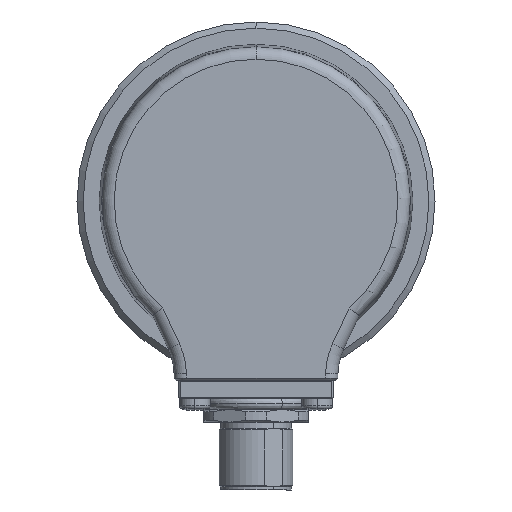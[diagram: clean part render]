
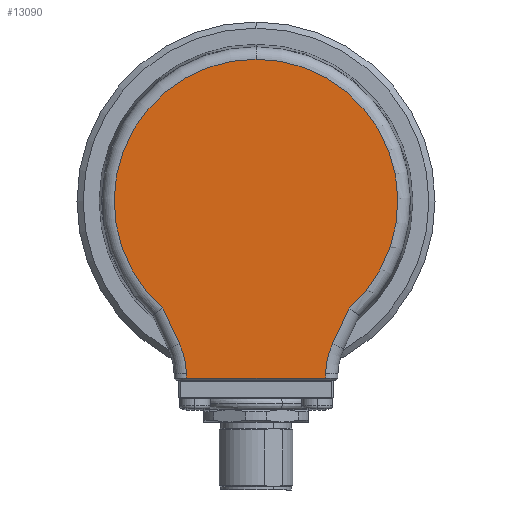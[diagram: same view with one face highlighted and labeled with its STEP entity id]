
A CAD part, left-side view. The second image highlights one B-rep face of the part: STEP entity #13090.
In plain terms, the highlighted planar face has unit normal (-1, 0, 0).
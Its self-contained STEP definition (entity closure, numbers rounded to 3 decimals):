
#22 = AXIS2_PLACEMENT_3D ( 'NONE', #3606, #16375, #5294 ) ;
#172 = CIRCLE ( 'NONE', #9676, 22.972 ) ;
#320 = LINE ( 'NONE', #5940, #7413 ) ;
#427 = CARTESIAN_POINT ( 'NONE',  ( -21., -11.25, -28.695 ) ) ;
#544 = CIRCLE ( 'NONE', #22, 12. ) ;
#1173 = CARTESIAN_POINT ( 'NONE',  ( -21., 11.255, -28.695 ) ) ;
#1405 = DIRECTION ( 'NONE',  ( 0., 0., 1. ) ) ;
#1484 = VERTEX_POINT ( 'NONE', #17247 ) ;
#1941 = VERTEX_POINT ( 'NONE', #13682 ) ;
#2122 = LINE ( 'NONE', #6018, #7319 ) ;
#2141 = VECTOR ( 'NONE', #11234, 1000. ) ;
#2441 = CARTESIAN_POINT ( 'NONE',  ( -21., 0., 0. ) ) ;
#2485 = AXIS2_PLACEMENT_3D ( 'NONE', #4322, #8415, #12645 ) ;
#2655 = DIRECTION ( 'NONE',  ( -1., 0., 0. ) ) ;
#2667 = LINE ( 'NONE', #15488, #2141 ) ;
#2771 = CARTESIAN_POINT ( 'NONE',  ( -21., 0., 0. ) ) ;
#3019 = ORIENTED_EDGE ( 'NONE', *, *, #10937, .T. ) ;
#3571 = ORIENTED_EDGE ( 'NONE', *, *, #9478, .T. ) ;
#3606 = CARTESIAN_POINT ( 'NONE',  ( -21., 23.266, -28.183 ) ) ;
#3626 = AXIS2_PLACEMENT_3D ( 'NONE', #5694, #10175, #19761 ) ;
#4322 = CARTESIAN_POINT ( 'NONE',  ( -21., -23.266, -28.183 ) ) ;
#4502 = DIRECTION ( 'NONE',  ( 0., -0.423, 0.906 ) ) ;
#5133 = DIRECTION ( 'NONE',  ( 0., 0., 1. ) ) ;
#5294 = DIRECTION ( 'NONE',  ( 0., 0., 1. ) ) ;
#5541 = PLANE ( 'NONE',  #17816 ) ;
#5636 = CARTESIAN_POINT ( 'NONE',  ( -21., -12.39, -23.112 ) ) ;
#5641 = EDGE_CURVE ( 'NONE', #12774, #12118, #10895, .T. ) ;
#5694 = CARTESIAN_POINT ( 'NONE',  ( -21., 0., 0. ) ) ;
#5781 = ORIENTED_EDGE ( 'NONE', *, *, #13299, .T. ) ;
#5940 = CARTESIAN_POINT ( 'NONE',  ( -21., 12.39, -23.112 ) ) ;
#6015 = DIRECTION ( 'NONE',  ( 0., -0.423, -0.906 ) ) ;
#6018 = CARTESIAN_POINT ( 'NONE',  ( -21., -14.953, -17.615 ) ) ;
#6709 = EDGE_CURVE ( 'NONE', #14110, #12774, #172, .T. ) ;
#7319 = VECTOR ( 'NONE', #4502, 1000. ) ;
#7413 = VECTOR ( 'NONE', #6015, 1000. ) ;
#7583 = VERTEX_POINT ( 'NONE', #19393 ) ;
#8147 = DIRECTION ( 'NONE',  ( 0., -0.017, 1. ) ) ;
#8301 = VERTEX_POINT ( 'NONE', #5636 ) ;
#8383 = CARTESIAN_POINT ( 'NONE',  ( -21., -11.752, -0.205 ) ) ;
#8394 = CARTESIAN_POINT ( 'NONE',  ( -21., -15.091, -17.32 ) ) ;
#8415 = DIRECTION ( 'NONE',  ( 1., 0., 0. ) ) ;
#8672 = DIRECTION ( 'NONE',  ( 1., 0., 0. ) ) ;
#9478 = EDGE_CURVE ( 'NONE', #1484, #17491, #2667, .T. ) ;
#9676 = AXIS2_PLACEMENT_3D ( 'NONE', #2441, #2655, #5133 ) ;
#9724 = EDGE_CURVE ( 'NONE', #8301, #14110, #2122, .T. ) ;
#10146 = EDGE_CURVE ( 'NONE', #1941, #8301, #19841, .T. ) ;
#10175 = DIRECTION ( 'NONE',  ( -1., 0., 0. ) ) ;
#10895 = CIRCLE ( 'NONE', #3626, 22.972 ) ;
#10937 = EDGE_CURVE ( 'NONE', #19166, #1484, #544, .T. ) ;
#11234 = DIRECTION ( 'NONE',  ( 0., -0.017, -1. ) ) ;
#12062 = VECTOR ( 'NONE', #8147, 1000. ) ;
#12118 = VERTEX_POINT ( 'NONE', #17789 ) ;
#12126 = LINE ( 'NONE', #427, #16234 ) ;
#12256 = EDGE_CURVE ( 'NONE', #7583, #1941, #19931, .T. ) ;
#12645 = DIRECTION ( 'NONE',  ( 0., 0., 1. ) ) ;
#12774 = VERTEX_POINT ( 'NONE', #16084 ) ;
#12979 = DIRECTION ( 'NONE',  ( 0., -1., 0. ) ) ;
#12995 = ORIENTED_EDGE ( 'NONE', *, *, #5641, .T. ) ;
#13013 = EDGE_CURVE ( 'NONE', #12118, #19166, #320, .T. ) ;
#13090 = ADVANCED_FACE ( 'NONE', ( #19689 ), #5541, .F. ) ;
#13208 = ORIENTED_EDGE ( 'NONE', *, *, #12256, .T. ) ;
#13299 = EDGE_CURVE ( 'NONE', #17491, #7583, #12126, .T. ) ;
#13682 = CARTESIAN_POINT ( 'NONE',  ( -21., -11.268, -27.974 ) ) ;
#14110 = VERTEX_POINT ( 'NONE', #8394 ) ;
#15488 = CARTESIAN_POINT ( 'NONE',  ( -21., 11.752, -0.205 ) ) ;
#16084 = CARTESIAN_POINT ( 'NONE',  ( -21., 0., 22.972 ) ) ;
#16234 = VECTOR ( 'NONE', #12979, 1000. ) ;
#16317 = ORIENTED_EDGE ( 'NONE', *, *, #9724, .T. ) ;
#16375 = DIRECTION ( 'NONE',  ( 1., 0., 0. ) ) ;
#16903 = EDGE_LOOP ( 'NONE', ( #3571, #5781, #13208, #19617, #16317, #19498, #12995, #20315, #3019 ) ) ;
#17247 = CARTESIAN_POINT ( 'NONE',  ( -21., 11.268, -27.974 ) ) ;
#17491 = VERTEX_POINT ( 'NONE', #1173 ) ;
#17785 = CARTESIAN_POINT ( 'NONE',  ( -21., 12.39, -23.112 ) ) ;
#17789 = CARTESIAN_POINT ( 'NONE',  ( -21., 15.091, -17.32 ) ) ;
#17816 = AXIS2_PLACEMENT_3D ( 'NONE', #2771, #8672, #1405 ) ;
#19166 = VERTEX_POINT ( 'NONE', #17785 ) ;
#19393 = CARTESIAN_POINT ( 'NONE',  ( -21., -11.255, -28.695 ) ) ;
#19498 = ORIENTED_EDGE ( 'NONE', *, *, #6709, .T. ) ;
#19617 = ORIENTED_EDGE ( 'NONE', *, *, #10146, .T. ) ;
#19689 = FACE_OUTER_BOUND ( 'NONE', #16903, .T. ) ;
#19761 = DIRECTION ( 'NONE',  ( 0., 0., 1. ) ) ;
#19841 = CIRCLE ( 'NONE', #2485, 12. ) ;
#19931 = LINE ( 'NONE', #8383, #12062 ) ;
#20315 = ORIENTED_EDGE ( 'NONE', *, *, #13013, .T. ) ;
